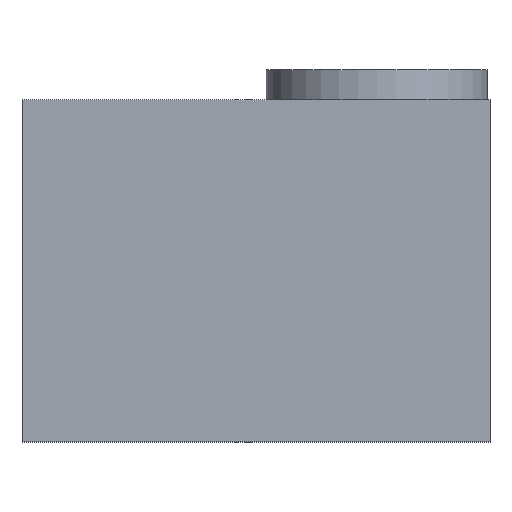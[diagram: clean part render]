
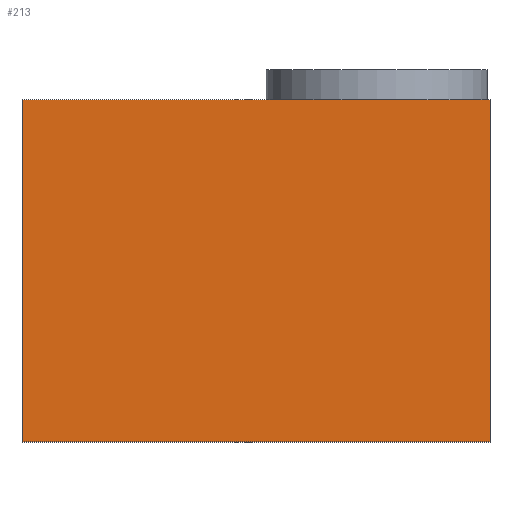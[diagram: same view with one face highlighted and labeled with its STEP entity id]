
A CAD part, top view. The second image highlights one B-rep face of the part: STEP entity #213.
In plain terms, the highlighted planar face has unit normal (0, 0, 1).
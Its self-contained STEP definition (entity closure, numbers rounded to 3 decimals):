
#24 = VERTEX_POINT('',#25);
#25 = CARTESIAN_POINT('',(88.75,-17.,14.25));
#32 = PLANE('',#33);
#33 = AXIS2_PLACEMENT_3D('',#34,#35,#36);
#34 = CARTESIAN_POINT('',(88.75,-17.,-14.25));
#35 = DIRECTION('',(1.,0.,0.));
#36 = DIRECTION('',(0.,0.,1.));
#44 = PLANE('',#45);
#45 = AXIS2_PLACEMENT_3D('',#46,#47,#48);
#46 = CARTESIAN_POINT('',(88.75,-17.,-14.25));
#47 = DIRECTION('',(0.,1.,0.));
#48 = DIRECTION('',(0.,0.,1.));
#85 = VERTEX_POINT('',#86);
#86 = CARTESIAN_POINT('',(88.75,17.,14.25));
#100 = PLANE('',#101);
#101 = AXIS2_PLACEMENT_3D('',#102,#103,#104);
#102 = CARTESIAN_POINT('',(88.75,17.,-14.25));
#103 = DIRECTION('',(0.,1.,0.));
#104 = DIRECTION('',(0.,0.,1.));
#112 = EDGE_CURVE('',#24,#85,#113,.T.);
#113 = SURFACE_CURVE('',#114,(#118,#125),.PCURVE_S1.);
#114 = LINE('',#115,#116);
#115 = CARTESIAN_POINT('',(88.75,-17.,14.25));
#116 = VECTOR('',#117,1.);
#117 = DIRECTION('',(0.,1.,0.));
#118 = PCURVE('',#32,#119);
#119 = DEFINITIONAL_REPRESENTATION('',(#120),#124);
#120 = LINE('',#121,#122);
#121 = CARTESIAN_POINT('',(28.5,0.));
#122 = VECTOR('',#123,1.);
#123 = DIRECTION('',(0.,-1.));
#124 = ( GEOMETRIC_REPRESENTATION_CONTEXT(2) 
PARAMETRIC_REPRESENTATION_CONTEXT() REPRESENTATION_CONTEXT('2D SPACE',''
  ) );
#125 = PCURVE('',#126,#131);
#126 = PLANE('',#127);
#127 = AXIS2_PLACEMENT_3D('',#128,#129,#130);
#128 = CARTESIAN_POINT('',(88.75,-17.,14.25));
#129 = DIRECTION('',(0.,0.,1.));
#130 = DIRECTION('',(1.,0.,0.));
#131 = DEFINITIONAL_REPRESENTATION('',(#132),#136);
#132 = LINE('',#133,#134);
#133 = CARTESIAN_POINT('',(0.,0.));
#134 = VECTOR('',#135,1.);
#135 = DIRECTION('',(0.,1.));
#136 = ( GEOMETRIC_REPRESENTATION_CONTEXT(2) 
PARAMETRIC_REPRESENTATION_CONTEXT() REPRESENTATION_CONTEXT('2D SPACE',''
  ) );
#165 = EDGE_CURVE('',#24,#166,#168,.T.);
#166 = VERTEX_POINT('',#167);
#167 = CARTESIAN_POINT('',(135.25,-17.,14.25));
#168 = SURFACE_CURVE('',#169,(#173,#180),.PCURVE_S1.);
#169 = LINE('',#170,#171);
#170 = CARTESIAN_POINT('',(88.75,-17.,14.25));
#171 = VECTOR('',#172,1.);
#172 = DIRECTION('',(1.,0.,0.));
#173 = PCURVE('',#44,#174);
#174 = DEFINITIONAL_REPRESENTATION('',(#175),#179);
#175 = LINE('',#176,#177);
#176 = CARTESIAN_POINT('',(28.5,0.));
#177 = VECTOR('',#178,1.);
#178 = DIRECTION('',(0.,1.));
#179 = ( GEOMETRIC_REPRESENTATION_CONTEXT(2) 
PARAMETRIC_REPRESENTATION_CONTEXT() REPRESENTATION_CONTEXT('2D SPACE',''
  ) );
#180 = PCURVE('',#126,#181);
#181 = DEFINITIONAL_REPRESENTATION('',(#182),#186);
#182 = LINE('',#183,#184);
#183 = CARTESIAN_POINT('',(0.,0.));
#184 = VECTOR('',#185,1.);
#185 = DIRECTION('',(1.,0.));
#186 = ( GEOMETRIC_REPRESENTATION_CONTEXT(2) 
PARAMETRIC_REPRESENTATION_CONTEXT() REPRESENTATION_CONTEXT('2D SPACE',''
  ) );
#202 = PLANE('',#203);
#203 = AXIS2_PLACEMENT_3D('',#204,#205,#206);
#204 = CARTESIAN_POINT('',(135.25,-17.,-14.25));
#205 = DIRECTION('',(1.,0.,0.));
#206 = DIRECTION('',(0.,0.,1.));
#213 = ADVANCED_FACE('',(#214),#126,.T.);
#214 = FACE_BOUND('',#215,.T.);
#215 = EDGE_LOOP('',(#216,#217,#218,#241));
#216 = ORIENTED_EDGE('',*,*,#112,.F.);
#217 = ORIENTED_EDGE('',*,*,#165,.T.);
#218 = ORIENTED_EDGE('',*,*,#219,.T.);
#219 = EDGE_CURVE('',#166,#220,#222,.T.);
#220 = VERTEX_POINT('',#221);
#221 = CARTESIAN_POINT('',(135.25,17.,14.25));
#222 = SURFACE_CURVE('',#223,(#227,#234),.PCURVE_S1.);
#223 = LINE('',#224,#225);
#224 = CARTESIAN_POINT('',(135.25,-17.,14.25));
#225 = VECTOR('',#226,1.);
#226 = DIRECTION('',(0.,1.,0.));
#227 = PCURVE('',#126,#228);
#228 = DEFINITIONAL_REPRESENTATION('',(#229),#233);
#229 = LINE('',#230,#231);
#230 = CARTESIAN_POINT('',(46.5,0.));
#231 = VECTOR('',#232,1.);
#232 = DIRECTION('',(0.,1.));
#233 = ( GEOMETRIC_REPRESENTATION_CONTEXT(2) 
PARAMETRIC_REPRESENTATION_CONTEXT() REPRESENTATION_CONTEXT('2D SPACE',''
  ) );
#234 = PCURVE('',#202,#235);
#235 = DEFINITIONAL_REPRESENTATION('',(#236),#240);
#236 = LINE('',#237,#238);
#237 = CARTESIAN_POINT('',(28.5,0.));
#238 = VECTOR('',#239,1.);
#239 = DIRECTION('',(0.,-1.));
#240 = ( GEOMETRIC_REPRESENTATION_CONTEXT(2) 
PARAMETRIC_REPRESENTATION_CONTEXT() REPRESENTATION_CONTEXT('2D SPACE',''
  ) );
#241 = ORIENTED_EDGE('',*,*,#242,.F.);
#242 = EDGE_CURVE('',#85,#220,#243,.T.);
#243 = SURFACE_CURVE('',#244,(#248,#255),.PCURVE_S1.);
#244 = LINE('',#245,#246);
#245 = CARTESIAN_POINT('',(88.75,17.,14.25));
#246 = VECTOR('',#247,1.);
#247 = DIRECTION('',(1.,0.,0.));
#248 = PCURVE('',#126,#249);
#249 = DEFINITIONAL_REPRESENTATION('',(#250),#254);
#250 = LINE('',#251,#252);
#251 = CARTESIAN_POINT('',(0.,34.));
#252 = VECTOR('',#253,1.);
#253 = DIRECTION('',(1.,0.));
#254 = ( GEOMETRIC_REPRESENTATION_CONTEXT(2) 
PARAMETRIC_REPRESENTATION_CONTEXT() REPRESENTATION_CONTEXT('2D SPACE',''
  ) );
#255 = PCURVE('',#100,#256);
#256 = DEFINITIONAL_REPRESENTATION('',(#257),#261);
#257 = LINE('',#258,#259);
#258 = CARTESIAN_POINT('',(28.5,0.));
#259 = VECTOR('',#260,1.);
#260 = DIRECTION('',(0.,1.));
#261 = ( GEOMETRIC_REPRESENTATION_CONTEXT(2) 
PARAMETRIC_REPRESENTATION_CONTEXT() REPRESENTATION_CONTEXT('2D SPACE',''
  ) );
